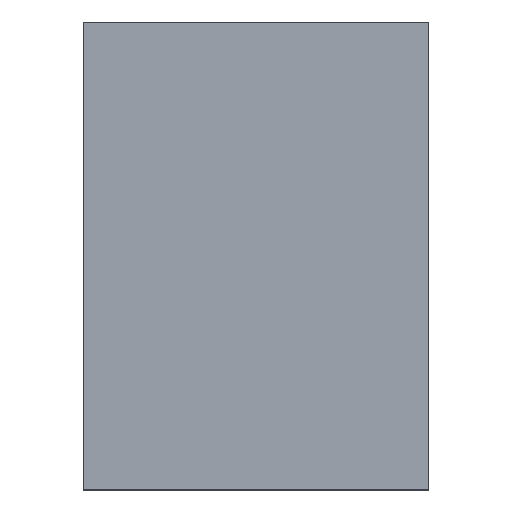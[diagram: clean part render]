
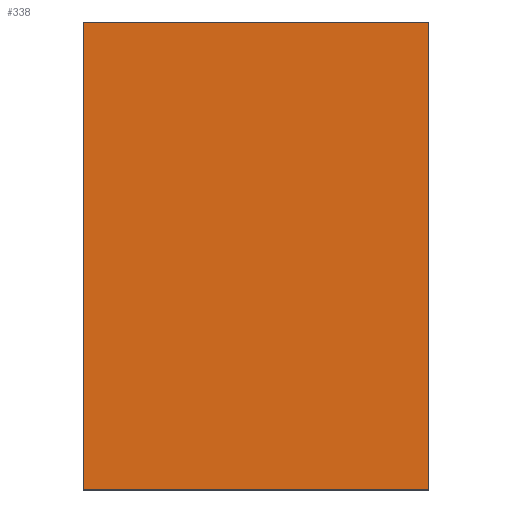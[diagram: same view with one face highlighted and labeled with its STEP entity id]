
A CAD part, top view. The second image highlights one B-rep face of the part: STEP entity #338.
In plain terms, the highlighted planar face has unit normal (0, 0, 1).
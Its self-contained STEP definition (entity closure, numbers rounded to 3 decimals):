
#24 = VERTEX_POINT('',#25);
#25 = CARTESIAN_POINT('',(600.,-115.,35.));
#32 = PLANE('',#33);
#33 = AXIS2_PLACEMENT_3D('',#34,#35,#36);
#34 = CARTESIAN_POINT('',(600.,-115.,-35.));
#35 = DIRECTION('',(1.,0.,0.));
#36 = DIRECTION('',(0.,0.,1.));
#44 = PLANE('',#45);
#45 = AXIS2_PLACEMENT_3D('',#46,#47,#48);
#46 = CARTESIAN_POINT('',(600.,-115.,-35.));
#47 = DIRECTION('',(0.,1.,0.));
#48 = DIRECTION('',(0.,0.,1.));
#85 = VERTEX_POINT('',#86);
#86 = CARTESIAN_POINT('',(600.,115.,35.));
#100 = PLANE('',#101);
#101 = AXIS2_PLACEMENT_3D('',#102,#103,#104);
#102 = CARTESIAN_POINT('',(600.,115.,-35.));
#103 = DIRECTION('',(0.,1.,0.));
#104 = DIRECTION('',(0.,0.,1.));
#112 = EDGE_CURVE('',#24,#85,#113,.T.);
#113 = SURFACE_CURVE('',#114,(#118,#125),.PCURVE_S1.);
#114 = LINE('',#115,#116);
#115 = CARTESIAN_POINT('',(600.,-115.,35.));
#116 = VECTOR('',#117,1.);
#117 = DIRECTION('',(0.,1.,0.));
#118 = PCURVE('',#32,#119);
#119 = DEFINITIONAL_REPRESENTATION('',(#120),#124);
#120 = LINE('',#121,#122);
#121 = CARTESIAN_POINT('',(70.,0.));
#122 = VECTOR('',#123,1.);
#123 = DIRECTION('',(0.,-1.));
#124 = ( GEOMETRIC_REPRESENTATION_CONTEXT(2) 
PARAMETRIC_REPRESENTATION_CONTEXT() REPRESENTATION_CONTEXT('2D SPACE',''
  ) );
#125 = PCURVE('',#126,#131);
#126 = PLANE('',#127);
#127 = AXIS2_PLACEMENT_3D('',#128,#129,#130);
#128 = CARTESIAN_POINT('',(600.,-115.,35.));
#129 = DIRECTION('',(0.,0.,1.));
#130 = DIRECTION('',(1.,0.,0.));
#131 = DEFINITIONAL_REPRESENTATION('',(#132),#136);
#132 = LINE('',#133,#134);
#133 = CARTESIAN_POINT('',(0.,0.));
#134 = VECTOR('',#135,1.);
#135 = DIRECTION('',(0.,1.));
#136 = ( GEOMETRIC_REPRESENTATION_CONTEXT(2) 
PARAMETRIC_REPRESENTATION_CONTEXT() REPRESENTATION_CONTEXT('2D SPACE',''
  ) );
#144 = VERTEX_POINT('',#145);
#145 = CARTESIAN_POINT('',(770.,-115.,35.));
#152 = PLANE('',#153);
#153 = AXIS2_PLACEMENT_3D('',#154,#155,#156);
#154 = CARTESIAN_POINT('',(770.,-115.,-35.));
#155 = DIRECTION('',(1.,0.,0.));
#156 = DIRECTION('',(0.,0.,1.));
#195 = VERTEX_POINT('',#196);
#196 = CARTESIAN_POINT('',(770.,115.,35.));
#217 = EDGE_CURVE('',#144,#195,#218,.T.);
#218 = SURFACE_CURVE('',#219,(#223,#230),.PCURVE_S1.);
#219 = LINE('',#220,#221);
#220 = CARTESIAN_POINT('',(770.,-115.,35.));
#221 = VECTOR('',#222,1.);
#222 = DIRECTION('',(0.,1.,0.));
#223 = PCURVE('',#152,#224);
#224 = DEFINITIONAL_REPRESENTATION('',(#225),#229);
#225 = LINE('',#226,#227);
#226 = CARTESIAN_POINT('',(70.,0.));
#227 = VECTOR('',#228,1.);
#228 = DIRECTION('',(0.,-1.));
#229 = ( GEOMETRIC_REPRESENTATION_CONTEXT(2) 
PARAMETRIC_REPRESENTATION_CONTEXT() REPRESENTATION_CONTEXT('2D SPACE',''
  ) );
#230 = PCURVE('',#126,#231);
#231 = DEFINITIONAL_REPRESENTATION('',(#232),#236);
#232 = LINE('',#233,#234);
#233 = CARTESIAN_POINT('',(170.,0.));
#234 = VECTOR('',#235,1.);
#235 = DIRECTION('',(0.,1.));
#236 = ( GEOMETRIC_REPRESENTATION_CONTEXT(2) 
PARAMETRIC_REPRESENTATION_CONTEXT() REPRESENTATION_CONTEXT('2D SPACE',''
  ) );
#263 = EDGE_CURVE('',#24,#144,#264,.T.);
#264 = SURFACE_CURVE('',#265,(#269,#276),.PCURVE_S1.);
#265 = LINE('',#266,#267);
#266 = CARTESIAN_POINT('',(600.,-115.,35.));
#267 = VECTOR('',#268,1.);
#268 = DIRECTION('',(1.,0.,0.));
#269 = PCURVE('',#44,#270);
#270 = DEFINITIONAL_REPRESENTATION('',(#271),#275);
#271 = LINE('',#272,#273);
#272 = CARTESIAN_POINT('',(70.,0.));
#273 = VECTOR('',#274,1.);
#274 = DIRECTION('',(0.,1.));
#275 = ( GEOMETRIC_REPRESENTATION_CONTEXT(2) 
PARAMETRIC_REPRESENTATION_CONTEXT() REPRESENTATION_CONTEXT('2D SPACE',''
  ) );
#276 = PCURVE('',#126,#277);
#277 = DEFINITIONAL_REPRESENTATION('',(#278),#282);
#278 = LINE('',#279,#280);
#279 = CARTESIAN_POINT('',(0.,0.));
#280 = VECTOR('',#281,1.);
#281 = DIRECTION('',(1.,0.));
#282 = ( GEOMETRIC_REPRESENTATION_CONTEXT(2) 
PARAMETRIC_REPRESENTATION_CONTEXT() REPRESENTATION_CONTEXT('2D SPACE',''
  ) );
#310 = EDGE_CURVE('',#85,#195,#311,.T.);
#311 = SURFACE_CURVE('',#312,(#316,#323),.PCURVE_S1.);
#312 = LINE('',#313,#314);
#313 = CARTESIAN_POINT('',(600.,115.,35.));
#314 = VECTOR('',#315,1.);
#315 = DIRECTION('',(1.,0.,0.));
#316 = PCURVE('',#100,#317);
#317 = DEFINITIONAL_REPRESENTATION('',(#318),#322);
#318 = LINE('',#319,#320);
#319 = CARTESIAN_POINT('',(70.,0.));
#320 = VECTOR('',#321,1.);
#321 = DIRECTION('',(0.,1.));
#322 = ( GEOMETRIC_REPRESENTATION_CONTEXT(2) 
PARAMETRIC_REPRESENTATION_CONTEXT() REPRESENTATION_CONTEXT('2D SPACE',''
  ) );
#323 = PCURVE('',#126,#324);
#324 = DEFINITIONAL_REPRESENTATION('',(#325),#329);
#325 = LINE('',#326,#327);
#326 = CARTESIAN_POINT('',(0.,230.));
#327 = VECTOR('',#328,1.);
#328 = DIRECTION('',(1.,0.));
#329 = ( GEOMETRIC_REPRESENTATION_CONTEXT(2) 
PARAMETRIC_REPRESENTATION_CONTEXT() REPRESENTATION_CONTEXT('2D SPACE',''
  ) );
#338 = ADVANCED_FACE('',(#339),#126,.T.);
#339 = FACE_BOUND('',#340,.T.);
#340 = EDGE_LOOP('',(#341,#342,#343,#344));
#341 = ORIENTED_EDGE('',*,*,#112,.F.);
#342 = ORIENTED_EDGE('',*,*,#263,.T.);
#343 = ORIENTED_EDGE('',*,*,#217,.T.);
#344 = ORIENTED_EDGE('',*,*,#310,.F.);
